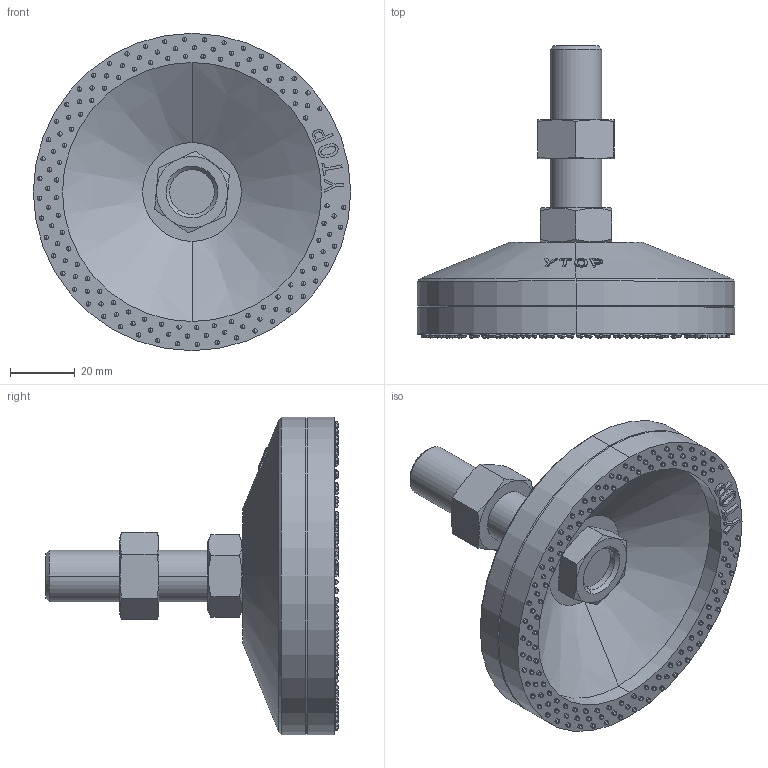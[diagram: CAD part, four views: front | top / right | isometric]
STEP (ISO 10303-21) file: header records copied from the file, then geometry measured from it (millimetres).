
FILE_DESCRIPTION (( 'STEP AP203' ), '1' );
FILE_NAME ('AH-100-1650-TPU.STEP', '2020-09-09T03:58:00', ( '' ), ( '' ), 'SwSTEP 2.0', 'SolidWorks 2016', '' );
FILE_SCHEMA (( 'CONFIG_CONTROL_DESIGN' ));
Length unit declared in the file: millimetre
Products named in the file (6): 脚垫调节六角螺母M16; 傲郈蹟裝M16炵蹈_M16X50; AH-100菁釱; 脚垫锁紧六角薄螺母M16; AH-100蝶菜; AH-100-1650-TPU
Assembly tree (5 placements, depth 2):
  AH-100-1650-TPU
    AH-100菁釱
    AH-100蝶菜
    傲郈蹟裝M16炵蹈_M16X50
    脚垫锁紧六角薄螺母M16
    脚垫调节六角螺母M16
Bounding box: 98 x 90.2 x 98 mm (x, y, z)
Volume: 129572.9 mm3; surface area: 47242.5 mm2
Topology: 5 solids, 5 shells, 723 faces, 2043 edges, 1215 vertices
Faces by surface type: cylinder 280, sphere 262, cone 66, plane 65, bspline 50
Entity records: 24930 total; most frequent: CARTESIAN_POINT 8524, DIRECTION 3559, ORIENTED_EDGE 3038, AXIS2_PLACEMENT_3D 1567, EDGE_CURVE 1519, VERTEX_POINT 953, CIRCLE 886, EDGE_LOOP 878
